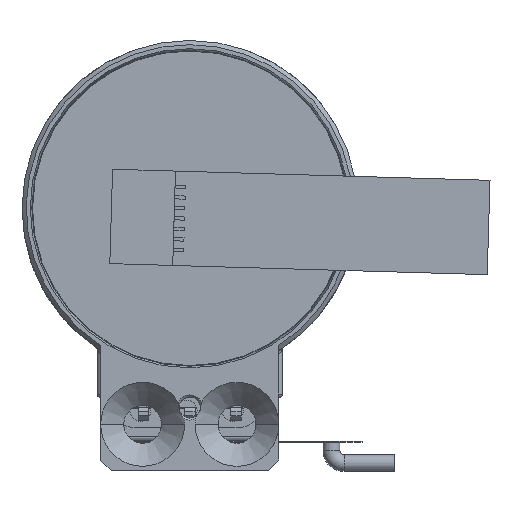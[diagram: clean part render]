
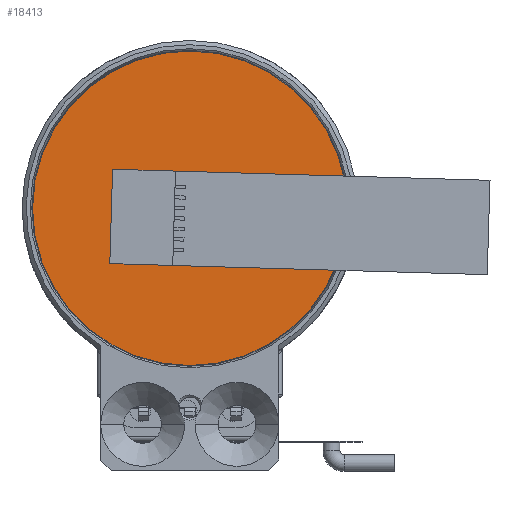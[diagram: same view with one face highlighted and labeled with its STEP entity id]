
A CAD part, front view. The second image highlights one B-rep face of the part: STEP entity #18413.
In plain terms, the highlighted planar face has unit normal (0, -1, 0) as drawn and (0, 0, 1) by its records, which use the part's own axes.
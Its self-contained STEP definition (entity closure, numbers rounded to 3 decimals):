
#18314=CARTESIAN_POINT('',(0.,0.,1.2));
#18315=DIRECTION('',(0.,0.,-1.));
#18316=DIRECTION('',(0.,1.,0.));
#18317=AXIS2_PLACEMENT_3D('',#18314,#18315,#18316);
#18319=CARTESIAN_POINT('',(0.,0.,1.2));
#18320=DIRECTION('',(0.,0.,-1.));
#18321=DIRECTION('',(0.,-1.,0.));
#18322=AXIS2_PLACEMENT_3D('',#18319,#18320,#18321);
#18350=CARTESIAN_POINT('',(0.,-7.5,1.2));
#18351=VERTEX_POINT('',#18350);
#18352=CARTESIAN_POINT('',(0.,7.5,1.2));
#18353=VERTEX_POINT('',#18352);
#18404=CARTESIAN_POINT('',(0.,0.,1.2));
#18405=DIRECTION('',(0.,0.,1.));
#18406=DIRECTION('',(0.,-1.,0.));
#18407=AXIS2_PLACEMENT_3D('',#18404,#18405,#18406);
#18408=PLANE('',#18407);
#18409=ORIENTED_EDGE('',*,*,#18384,.T.);
#18410=ORIENTED_EDGE('',*,*,#18398,.T.);
#18411=EDGE_LOOP('',(#18409,#18410));
#18412=FACE_OUTER_BOUND('',#18411,.F.);
#18413=ADVANCED_FACE('',(#18412),#18408,.T.);
#18318=CIRCLE('',#18317,7.5);
#18323=CIRCLE('',#18322,7.5);
#18384=EDGE_CURVE('',#18353,#18351,#18318,.T.);
#18398=EDGE_CURVE('',#18351,#18353,#18323,.T.);
